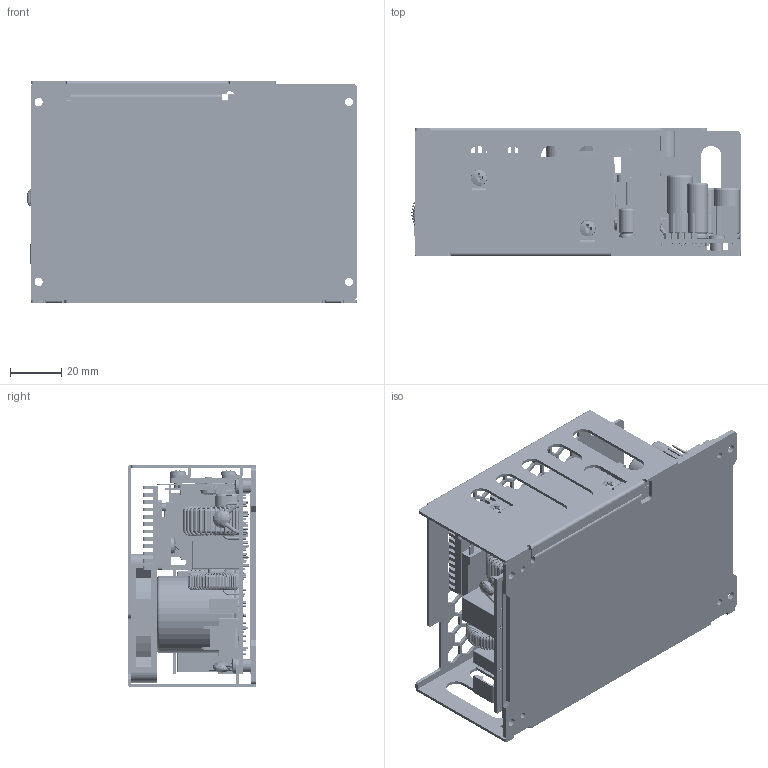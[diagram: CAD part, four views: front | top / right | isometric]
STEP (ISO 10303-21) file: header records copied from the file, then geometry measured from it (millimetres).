
FILE_DESCRIPTION (( 'STEP AP214' ), '1' );
FILE_NAME ('TPP 450-MB1.STEP', '2019-04-08T09:55:57', ( 'user' ), ( '' ), 'SwSTEP 2.0', 'SolidWorks 2016', '' );
FILE_SCHEMA (( 'AUTOMOTIVE_DESIGN' ));
Length unit declared in the file: millimetre
Products named in the file (1): TPP 450-MB1
Bounding box: 128.33 x 50 x 86.6 mm (x, y, z)
Volume: 188181.4 mm3; surface area: 213399.2 mm2
Topology: 87 solids, 87 shells, 7381 faces, 19446 edges, 12352 vertices
Faces by surface type: plane 3766, cylinder 2457, torus 802, cone 210, bspline 96, sphere 50
Entity records: 330668 total; most frequent: CARTESIAN_POINT 64437, ORIENTED_EDGE 38728, DIRECTION 38094, EDGE_CURVE 19364, AXIS2_PLACEMENT_3D 13223, VERTEX_POINT 12352, VECTOR 11648, LINE 11648
